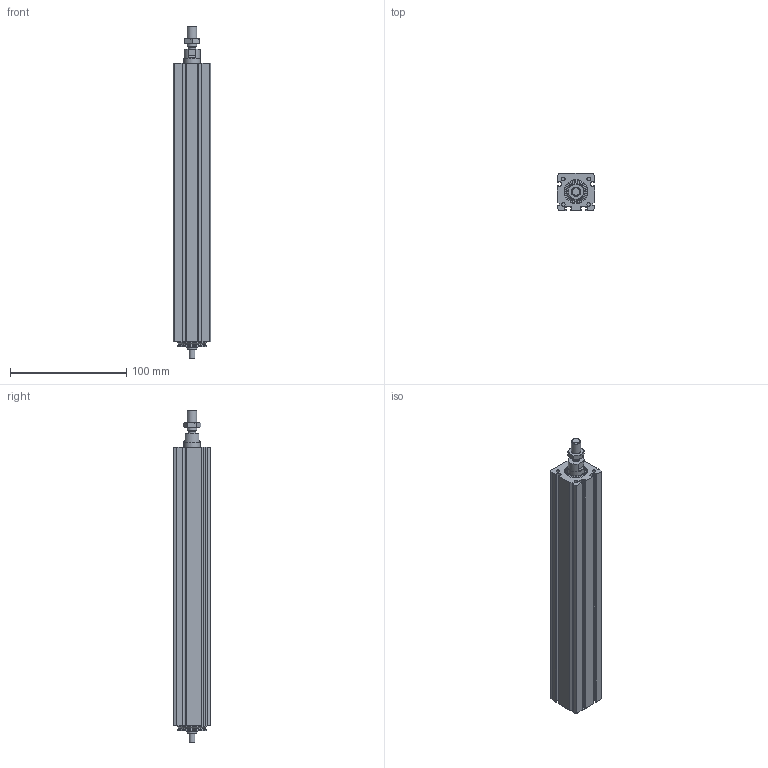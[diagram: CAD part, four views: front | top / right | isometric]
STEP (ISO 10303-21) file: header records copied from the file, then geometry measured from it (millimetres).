
FILE_DESCRIPTION(/* description */ ('STEP AP214'),/* implementation_level */ '2;1');
FILE_NAME(/* name */ 'MCE 32 0802 175 0(0)',/* time_stamp */ '2023-10-05T14:14:55+02:00',/* author */ ('License CC BY-ND 4.0'),/* organization */ ('CADENAS'),/* preprocessor_version */ 'ST-DEVELOPER v19.3',/* originating_system */ 'PARTsolutions',/* authorisation */ ' ');
FILE_SCHEMA (('AUTOMOTIVE_DESIGN {1 0 10303 214 3 1 1}'));
Length unit declared in the file: millimetre
Products named in the file (4): MCE 32 0802 175  0(0); 32_nut; 32(1750)_rod; 32(175)_msc
Assembly tree (3 placements, depth 2):
  MCE 32 0802 175  0(0)
    32_nut
    32(1750)_rod
    32(175)_msc
Bounding box: 32 x 32 x 286 mm (x, y, z)
Volume: 177185.3 mm3; surface area: 75082.6 mm2
Topology: 3 solids, 3 shells, 205 faces, 503 edges, 326 vertices
Faces by surface type: cylinder 89, plane 88, cone 23, torus 5
Full cylindrical faces by diameter (mm): 2.459 x4, 3.242 x4, 5 x1, 6.5 x1, 6.647 x1, 8 x2, 10 x1, 13.8 x1, 14 x2, 17.46 x1, 19.5 x1, 24.5 x2, 25 x2
Entity records: 6017 total; most frequent: CARTESIAN_POINT 1087, DIRECTION 1064, ORIENTED_EDGE 924, EDGE_CURVE 462, AXIS2_PLACEMENT_3D 419, VERTEX_POINT 324, EDGE_LOOP 268, FACE_BOUND 268
